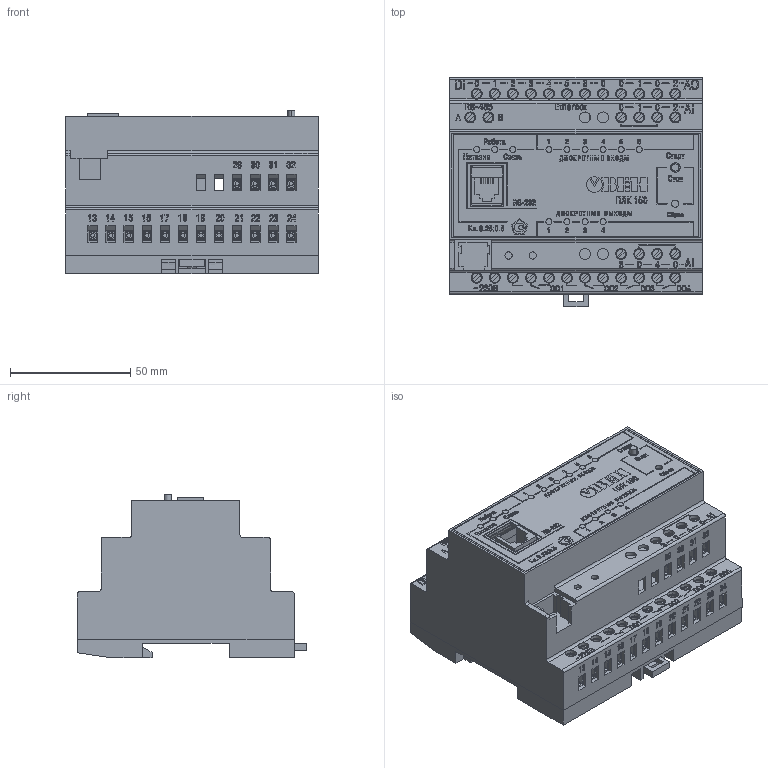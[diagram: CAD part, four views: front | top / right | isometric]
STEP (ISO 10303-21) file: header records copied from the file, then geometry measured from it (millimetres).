
FILE_DESCRIPTION (( 'STEP AP214' ), '1' );
FILE_NAME ('3D Ìîäåëü ÏËÊ150.STEP', '2016-01-18T11:49:38', ( '' ), ( '' ), 'SwSTEP 2.0', 'SolidWorks 2013', '' );
FILE_SCHEMA (( 'AUTOMOTIVE_DESIGN' ));
Length unit declared in the file: millimetre
Products named in the file (10): Êíîïêà Ñáðîñ; Êíîïêà Ñòàðò; Ïàíåëü ëèöåâàÿ ÏËÊ150; RS-232; Êëåììà_9,5õ9,8õ3,5ìì; Çàùåëêà(Ä); Ethernet; Êîðïóñ ÏËÊ150; ﾎ魵瑙韃 ﾏﾋﾊ150; 3D Ìîäåëü ÏËÊ150
Assembly tree (42 placements, depth 2):
  3D Ìîäåëü ÏËÊ150
    ﾎ魵瑙韃 ﾏﾋﾊ150
    Êîðïóñ ÏËÊ150
    Ethernet
    Çàùåëêà(Ä)
    Êëåììà_9,5õ9,8õ3,5ìì  x34
    RS-232
    Ïàíåëü ëèöåâàÿ ÏËÊ150
    Êíîïêà Ñòàðò
    Êíîïêà Ñáðîñ
Bounding box: 105 x 95.15 x 67.9 mm (x, y, z)
Volume: 132239.4 mm3; surface area: 117278.3 mm2
Topology: 178 solids, 178 shells, 5413 faces, 13949 edges, 9276 vertices
Faces by surface type: plane 3768, bspline 832, cylinder 813
Entity records: 201658 total; most frequent: CARTESIAN_POINT 77269, ORIENTED_EDGE 20110, DIRECTION 14701, EDGE_CURVE 10055, VECTOR 7581, LINE 7581, VERTEX_POINT 6702, EDGE_LOOP 4193
